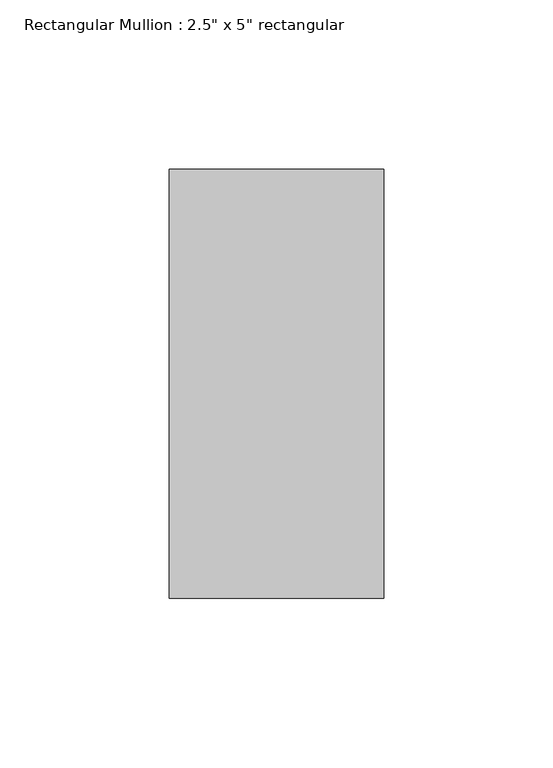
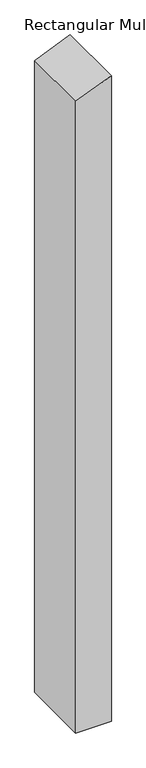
"""IFC4 building model written with IfcOpenShell, lengths in millimetres: member geometry."""

from ifc_helpers import new_model, si_unit, frame, origin, place, context, project, spatial, polyline, outline, extrude, source, transform, mapped, element, save


def member_41d3f87c(model_context):
    return source(origin(), model_context, "Body", "SweptSolid", [
        extrude(outline(polyline([(0.0, 0.0), (-26.3025612, -63.5), (-1219.2, -63.5), (-1219.2, 0.0), (0.0, 0.0)])), frame((0.0, -63.5, 0.0), z_axis=(0.0, 1.0, 0.0), x_axis=(0.0, 0.0, 1.0)), (0.0, 0.0, 1.0), 127.0),
    ])


if __name__ == "__main__":
    model = new_model("IFC4")
    model_context = context("Model", 3, world=origin())
    ifc_project = project(units=[si_unit("LENGTHUNIT", "METRE", prefix="MILLI")], contexts=[model_context])
    site = spatial("IfcSite", under=ifc_project)
    building = spatial("IfcBuilding", under=site)
    placement = place(None, origin())
    member_shape = member_41d3f87c(model_context)
    element("IfcMember", 1, ObjectType="Rectangular Mullion : 2.5\" x 5\" rectangular", at=placement, inside=building, context=model_context, shape_type="MappedRepresentation", body=[
        mapped(member_shape, transform((0.0, 0.0, 0.0), x_axis=(1.0, 0.0, 0.0), y_axis=(0.0, 1.0, 0.0), z_axis=(0.0, 0.0, 1.0))),
    ])
    save(model, "model.ifc")
